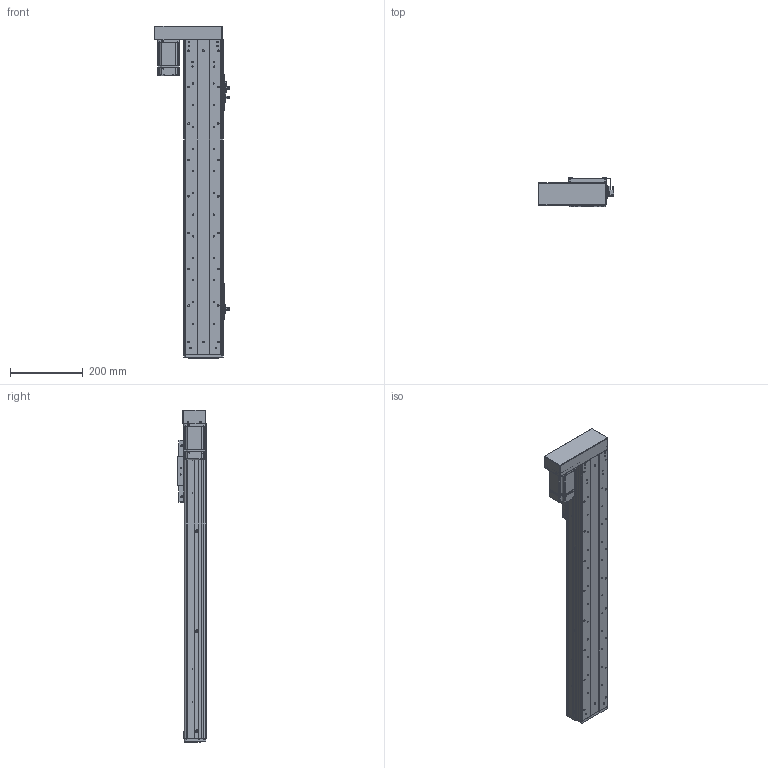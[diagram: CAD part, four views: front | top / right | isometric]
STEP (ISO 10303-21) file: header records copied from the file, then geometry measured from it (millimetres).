
FILE_DESCRIPTION (( 'STEP AP203' ), '1' );
FILE_NAME ('RY100FS-L1620-300-LK(15双轨).SLDASM_600.step', '2021-03-02T07:40:22', ( '盈信电脑' ), ( '东莞市道滘镇水果街19号' ), 'SwSTEP 2.0', 'SolidWorks 2012', '' );
FILE_SCHEMA (( 'CONFIG_CONTROL_DESIGN' ));
Products named in the file (21): 蚥薯蝶紫輸; RY100FS-L1620-300-LK(15邧寢).SLDASM_600; RY100FS-15邧寢蛌殏萇儂欶; RY100FS-15邧寢蛌殏萇儂釱; 1; 滅袉蝶14-35; RY100FS-15邧寢蛌殏萇儂啣; RY100FS-双轨螺母座(16丝杆）; RY100F-詩湍揤踡輸; 覜茼ん672; RY80俋离覜茼え; 672嫖萇羲壽假蚾釱; RY100F-詩湍揤踡謫; RY100F-綴裔啣; RY100F-滅鳥裔啣; RY100FS-双轨铝滑块(上板）; 棠沺沭; RY100F-詩湍幗謫粣; RY100FS-300-LK15絳寢倰第菁釱_600; RY100FS-300-LK15邧寢祥凄詩湍_600; RY100FS-300-LK15絳寢倰第奻裔啣_600
Assembly tree (29 placements, depth 2):
  RY100FS-L1620-300-LK(15邧寢).SLDASM_600
    RY100FS-300-LK15絳寢倰第菁釱_600
    RY100FS-300-LK15絳寢倰第奻裔啣_600  x2
    RY100FS-300-LK15邧寢祥凄詩湍_600
    RY100FS-双轨铝滑块(上板）
    RY100F-滅鳥裔啣
    棠沺沭  x2
    RY100F-詩湍幗謫粣
    RY100F-詩湍揤踡謫  x2
    RY100F-綴裔啣
    672嫖萇羲壽假蚾釱  x2
    RY80俋离覜茼え  x2
    覜茼ん672  x3
    RY100F-詩湍揤踡輸  x2
    RY100FS-双轨螺母座(16丝杆）
    RY100FS-15邧寢蛌殏萇儂釱
    滅袉蝶14-35
    1
    RY100FS-15邧寢蛌殏萇儂啣
    RY100FS-15邧寢蛌殏萇儂欶
    蚥薯蝶紫輸  x2
Bounding box: 207.3 x 78.5 x 912 mm (x, y, z)
Volume: 2308658.5 mm3; surface area: 976644.3 mm2
Topology: 29 solids, 29 shells, 2238 faces, 6067 edges, 3916 vertices
Faces by surface type: plane 1027, cylinder 1010, cone 168, bspline 33
Entity records: 64016 total; most frequent: CARTESIAN_POINT 13443, DIRECTION 10090, ORIENTED_EDGE 9942, EDGE_CURVE 4971, AXIS2_PLACEMENT_3D 3570, VERTEX_POINT 3264, VECTOR 2950, LINE 2950
